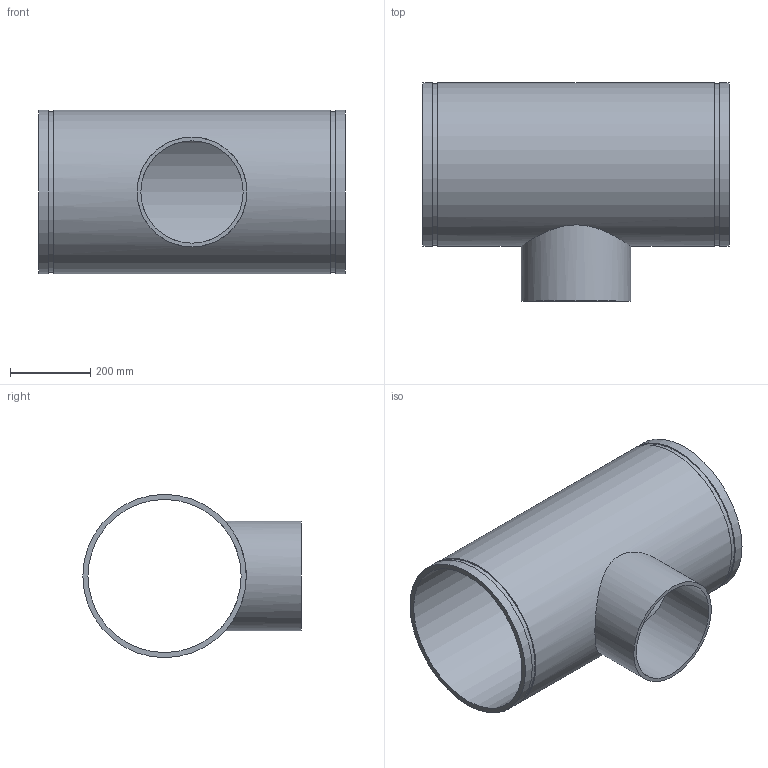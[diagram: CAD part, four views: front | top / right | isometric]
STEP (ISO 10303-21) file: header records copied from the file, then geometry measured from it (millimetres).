
FILE_DESCRIPTION(/* description */ ('VIC REDUCING TEE No 29T FFT (OGSxMPT)','CAx-IF Rec.Pracs.---Representation and Presentation of Product Manufacturing Information (PMI)---4.0---2014-10-13'),/* implementation_level */ '2;1');
FILE_NAME(/* name */ 'C:\Users\kkamble\AppData\Roaming\Autodesk\ApplicationPlugins\Back Up\Victaulic_IPS_Tee Reducing_No 29T FFT (OGSxMPT)\Victaulic_IPS_Tee Reducing_No 29T FFT (OGSxMPT)_16.0x10.0 (400x250).stp',/* time_stamp */ '2020-09-16T22:39:57+05:00',/* author */ ('CORINNE GRAY'),/* organization */ ('Victaulic'),/* preprocessor_version */ 'ST-DEVELOPER v17.2',/* originating_system */ 'Autodesk Inventor 2019',/* authorisation */ '');
FILE_SCHEMA (('AP242_MANAGED_MODEL_BASED_3D_ENGINEERING_MIM_LF { 1 0 10303 442 1 1 4 }'));
Length unit declared in the file: inch
Products named in the file (1): 29 FFT-16.0x10.0
Bounding box: 762 x 543.05 x 406.4 mm (x, y, z)
Volume: 12424344.3 mm3; surface area: 2097946.2 mm2
Topology: 1 solids, 1 shells, 15 faces, 32 edges, 24 vertices
Faces by surface type: cylinder 8, plane 7
Full cylindrical faces by diameter (mm): 254.508 x1, 273.05 x1, 381 x1, 400.837 x2, 406.4 x3
Entity records: 725 total; most frequent: CARTESIAN_POINT 237, DIRECTION 106, ORIENTED_EDGE 64, AXIS2_PLACEMENT_3D 49, EDGE_CURVE 32, EDGE_LOOP 24, VERTEX_POINT 24, CIRCLE 20
